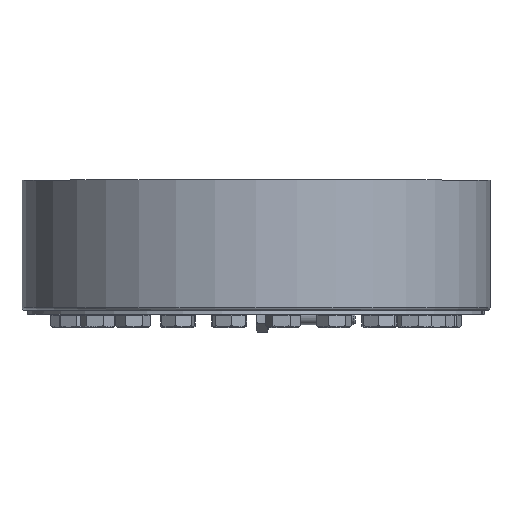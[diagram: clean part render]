
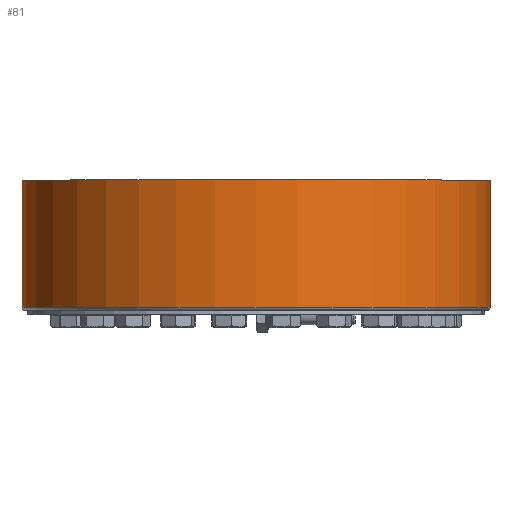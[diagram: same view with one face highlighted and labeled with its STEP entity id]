
A CAD part, top view. The second image highlights one B-rep face of the part: STEP entity #81.
In plain terms, the highlighted cylindrical face has radius 230 mm (diameter 460 mm), a full revolution.
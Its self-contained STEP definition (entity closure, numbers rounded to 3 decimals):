
#81 = ADVANCED_FACE( '', ( #202, #203 ), #204, .T. );
#202 = FACE_OUTER_BOUND( '', #441, .T. );
#203 = FACE_OUTER_BOUND( '', #442, .T. );
#204 = CYLINDRICAL_SURFACE( '', #443, 230. );
#441 = EDGE_LOOP( '', ( #719 ) );
#442 = EDGE_LOOP( '', ( #720 ) );
#443 = AXIS2_PLACEMENT_3D( '', #721, #722, #723 );
#719 = ORIENTED_EDGE( '', *, *, #1079, .T. );
#720 = ORIENTED_EDGE( '', *, *, #1080, .T. );
#721 = CARTESIAN_POINT( '', ( 0., -60., 0. ) );
#722 = DIRECTION( '', ( 0., 1., 0. ) );
#723 = DIRECTION( '', ( 0., 0., -1. ) );
#1079 = EDGE_CURVE( '', #1253, #1253, #1254, .F. );
#1080 = EDGE_CURVE( '', #1255, #1255, #1256, .T. );
#1253 = VERTEX_POINT( '', #1608 );
#1254 = CIRCLE( '', #1609, 230. );
#1255 = VERTEX_POINT( '', #1610 );
#1256 = CIRCLE( '', #1611, 230. );
#1608 = CARTESIAN_POINT( '', ( 0., 7., -230. ) );
#1609 = AXIS2_PLACEMENT_3D( '', #1879, #1880, #1881 );
#1610 = CARTESIAN_POINT( '', ( 0., 132., -230. ) );
#1611 = AXIS2_PLACEMENT_3D( '', #1882, #1883, #1884 );
#1879 = CARTESIAN_POINT( '', ( 0., 7., 0. ) );
#1880 = DIRECTION( '', ( 0., -1., 0. ) );
#1881 = DIRECTION( '', ( 0., 0., -1. ) );
#1882 = CARTESIAN_POINT( '', ( 0., 132., 0. ) );
#1883 = DIRECTION( '', ( 0., -1., 0. ) );
#1884 = DIRECTION( '', ( 0., 0., -1. ) );
